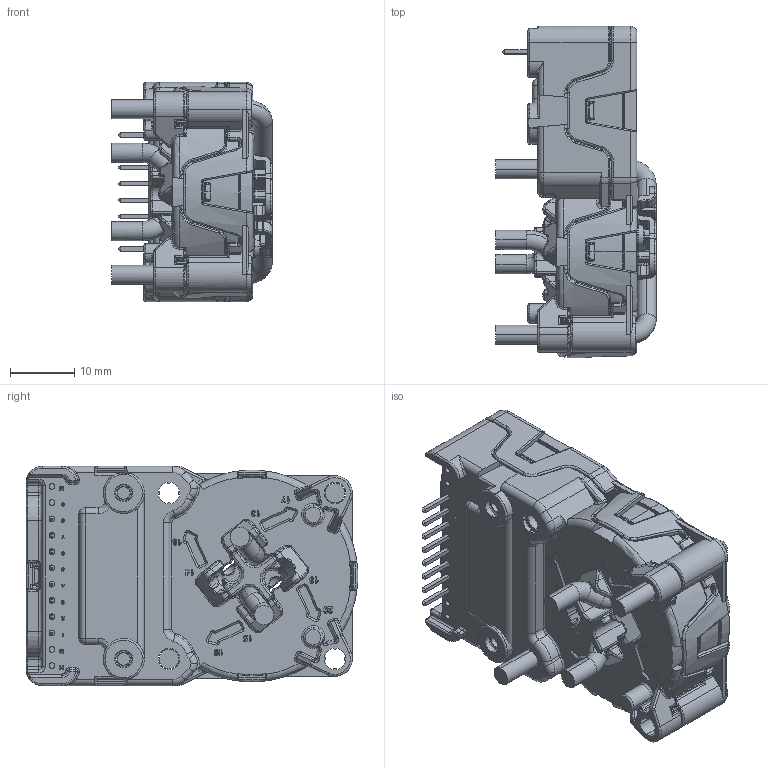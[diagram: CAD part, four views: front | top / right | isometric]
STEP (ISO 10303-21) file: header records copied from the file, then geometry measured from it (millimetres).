
FILE_DESCRIPTION (( 'STEP AP214' ), '1' );
FILE_NAME ('CDT 0.3-S2.STEP', '2025-06-24T09:31:30', ( '' ), ( '' ), 'SwSTEP 2.0', 'SolidWorks 2025', '' );
FILE_SCHEMA (( 'AUTOMOTIVE_DESIGN' ));
Products named in the file (1): CDT 0.3-S2
Bounding box: 25 x 51.69 x 34.2 mm (x, y, z)
Volume: 22698 mm3; surface area: 13944.3 mm2
Topology: 3 solids, 6 shells, 4334 faces, 11437 edges, 7029 vertices
Faces by surface type: plane 1693, cylinder 1217, bspline 658, torus 555, cone 131, sphere 80
Entity records: 238867 total; most frequent: CARTESIAN_POINT 137345, ORIENTED_EDGE 22642, DIRECTION 19544, EDGE_CURVE 11321, VERTEX_POINT 7007, AXIS2_PLACEMENT_3D 6831, VECTOR 5882, LINE 5882
